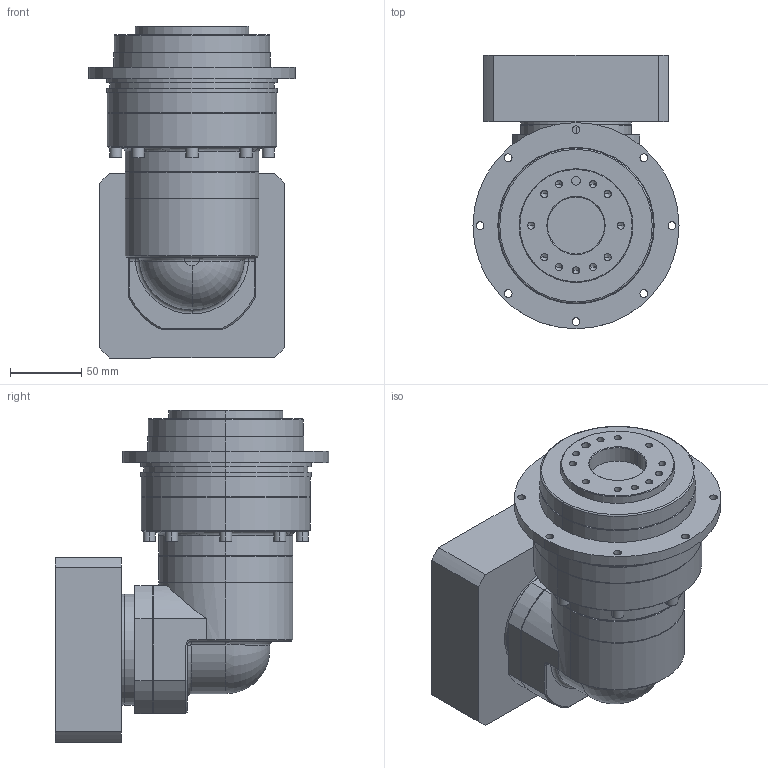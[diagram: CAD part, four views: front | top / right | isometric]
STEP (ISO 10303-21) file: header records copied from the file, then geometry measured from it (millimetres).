
FILE_DESCRIPTION (( 'STEP AP214' ), '1' );
FILE_NAME ('EVT110-L2-P1 24-110-145-M8.STEP', '2025-02-18T06:40:50', ( '微软用户' ), ( '微软中国' ), 'SwSTEP 2.0', 'SolidWorks 2021', '' );
FILE_SCHEMA (( 'AUTOMOTIVE_DESIGN' ));
Length unit declared in the file: millimetre
Products named in the file (1): EVT110-L2-P1 24-110-145-M8
Bounding box: 145 x 192.5 x 233.5 mm (x, y, z)
Volume: 2417089.2 mm3; surface area: 180480.8 mm2
Topology: 1 solids, 1 shells, 307 faces, 737 edges, 451 vertices
Faces by surface type: cylinder 120, plane 120, cone 55, torus 8, sphere 2, bspline 2
Entity records: 9498 total; most frequent: CARTESIAN_POINT 1992, DIRECTION 1592, ORIENTED_EDGE 1430, EDGE_CURVE 715, AXIS2_PLACEMENT_3D 609, VERTEX_POINT 451, LINE 374, VECTOR 374
